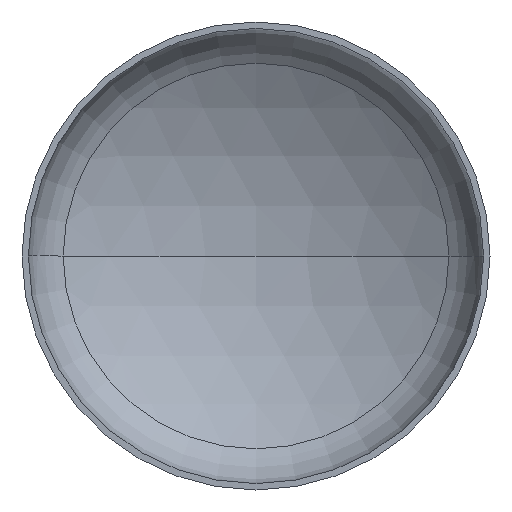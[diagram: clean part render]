
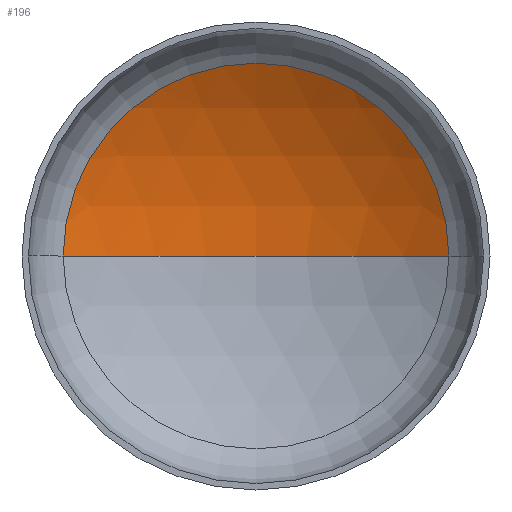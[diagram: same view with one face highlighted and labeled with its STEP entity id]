
A CAD part, front view. The second image highlights one B-rep face of the part: STEP entity #196.
In plain terms, the highlighted spherical face has radius 1280 mm.
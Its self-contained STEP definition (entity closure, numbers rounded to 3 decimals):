
#14 = AXIS2_PLACEMENT_3D ( 'NONE', #187, #388, #127 ) ;
#15 = DIRECTION ( 'NONE',  ( 0., 0., -1. ) ) ;
#16 = AXIS2_PLACEMENT_3D ( 'NONE', #159, #60, #362 ) ;
#19 = AXIS2_PLACEMENT_3D ( 'NONE', #107, #108, #133 ) ;
#22 = CARTESIAN_POINT ( 'NONE',  ( 0., -817.207, 0. ) ) ;
#26 = CIRCLE ( 'NONE', #19, 659.169 ) ;
#29 = AXIS2_PLACEMENT_3D ( 'NONE', #22, #15, #282 ) ;
#36 = ORIENTED_EDGE ( 'NONE', *, *, #307, .T. ) ;
#51 = EDGE_LOOP ( 'NONE', ( #259, #249, #36 ) ) ;
#60 = DIRECTION ( 'NONE',  ( 0., 0., 1. ) ) ;
#75 = VERTEX_POINT ( 'NONE', #334 ) ;
#81 = SPHERICAL_SURFACE ( 'NONE', #29, 1280. ) ;
#107 = CARTESIAN_POINT ( 'NONE',  ( 0., 280.015, 0. ) ) ;
#108 = DIRECTION ( 'NONE',  ( 0., -1., 0. ) ) ;
#127 = DIRECTION ( 'NONE',  ( -1., 0., 0. ) ) ;
#133 = DIRECTION ( 'NONE',  ( 1., 0., 0. ) ) ;
#134 = CIRCLE ( 'NONE', #14, 1280. ) ;
#139 = CARTESIAN_POINT ( 'NONE',  ( 659.169, 280.015, 0. ) ) ;
#159 = CARTESIAN_POINT ( 'NONE',  ( 0., -817.207, 0. ) ) ;
#187 = CARTESIAN_POINT ( 'NONE',  ( 0., -817.207, 0. ) ) ;
#195 = CARTESIAN_POINT ( 'NONE',  ( -659.169, 280.015, 0. ) ) ;
#196 = ADVANCED_FACE ( 'NONE', ( #229 ), #81, .F. ) ;
#206 = CIRCLE ( 'NONE', #16, 1280. ) ;
#223 = VERTEX_POINT ( 'NONE', #139 ) ;
#229 = FACE_OUTER_BOUND ( 'NONE', #51, .T. ) ;
#249 = ORIENTED_EDGE ( 'NONE', *, *, #320, .T. ) ;
#259 = ORIENTED_EDGE ( 'NONE', *, *, #326, .F. ) ;
#282 = DIRECTION ( 'NONE',  ( -1., 0., 0. ) ) ;
#298 = VERTEX_POINT ( 'NONE', #195 ) ;
#307 = EDGE_CURVE ( 'NONE', #223, #298, #26, .T. ) ;
#320 = EDGE_CURVE ( 'NONE', #75, #223, #134, .T. ) ;
#326 = EDGE_CURVE ( 'NONE', #75, #298, #206, .T. ) ;
#334 = CARTESIAN_POINT ( 'NONE',  ( 0., 462.793, 0. ) ) ;
#362 = DIRECTION ( 'NONE',  ( 1., 0., 0. ) ) ;
#388 = DIRECTION ( 'NONE',  ( 0., 0., -1. ) ) ;
